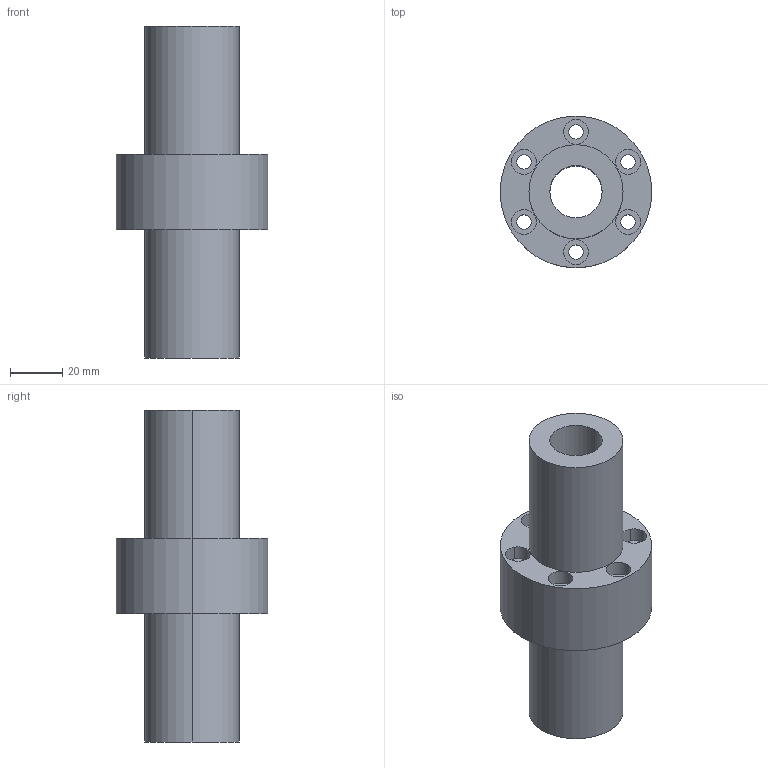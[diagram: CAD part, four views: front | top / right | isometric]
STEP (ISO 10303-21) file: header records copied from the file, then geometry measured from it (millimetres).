
FILE_DESCRIPTION((''),'2;1');
FILE_NAME('20-6T4','2008-04-03T',('yanyu'),(''),'PRO/ENGINEER BY PARAMETRIC TECHNOLOGY CORPORATION, 2005070','PRO/ENGINEER BY PARAMETRIC TECHNOLOGY CORPORATION, 2005070','');
FILE_SCHEMA(('CONFIG_CONTROL_DESIGN'));
Length unit declared in the file: millimetre
Products named in the file (1): 20-6T4
Bounding box: 58 x 58 x 127 mm (x, y, z)
Volume: 130784.9 mm3; surface area: 32139.3 mm2
Topology: 1 solids, 1 shells, 42 faces, 100 edges, 68 vertices
Faces by surface type: cylinder 32, plane 10
Entity records: 1330 total; most frequent: DIRECTION 252, CARTESIAN_POINT 210, ORIENTED_EDGE 200, AXIS2_PLACEMENT_3D 110, EDGE_CURVE 100, VERTEX_POINT 68, CIRCLE 68, EDGE_LOOP 64
